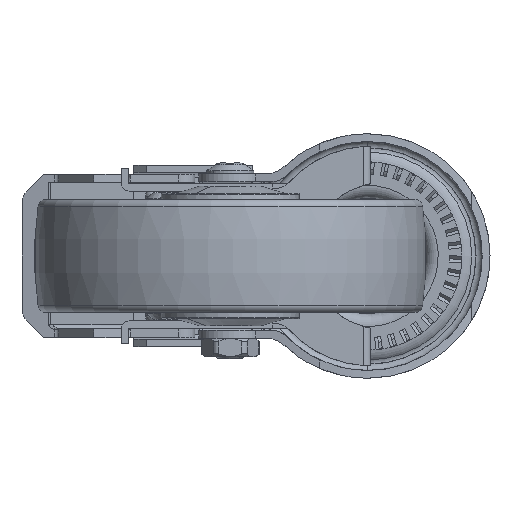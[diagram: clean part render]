
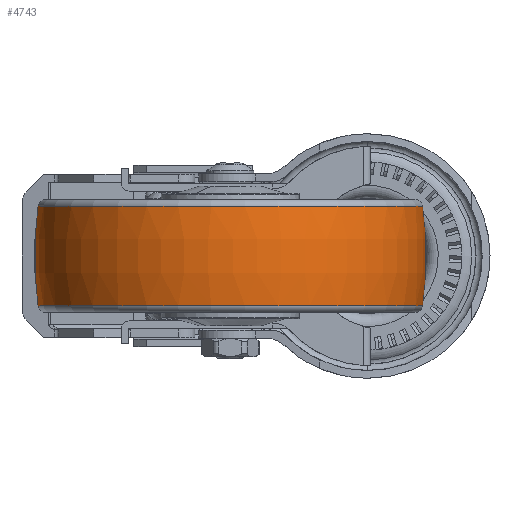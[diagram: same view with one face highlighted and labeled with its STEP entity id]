
A CAD part, front view. The second image highlights one B-rep face of the part: STEP entity #4743.
In plain terms, the highlighted toroidal (fillet/blend) face has major radius 62.5 mm and minor radius 125 mm.
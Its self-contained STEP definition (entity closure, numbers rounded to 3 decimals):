
#4465 = EDGE_CURVE ( 'NONE', #4569, #4468, #15910, .T. ) ;
#4468 = VERTEX_POINT ( 'NONE', #15924 ) ;
#4540 = VERTEX_POINT ( 'NONE', #16018 ) ;
#4544 = EDGE_CURVE ( 'NONE', #4574, #4540, #16017, .T. ) ;
#4569 = VERTEX_POINT ( 'NONE', #16072 ) ;
#4574 = VERTEX_POINT ( 'NONE', #16065 ) ;
#4610 = EDGE_CURVE ( 'NONE', #4569, #4574, #16098, .T. ) ;
#4742 = ORIENTED_EDGE ( 'NONE', *, *, #4610, .T. ) ;
#4743 = ADVANCED_FACE ( 'NONE', ( #16212 ), #16259, .T. ) ;
#4744 = ORIENTED_EDGE ( 'NONE', *, *, #4544, .T. ) ;
#4752 = ORIENTED_EDGE ( 'NONE', *, *, #4767, .F. ) ;
#4763 = ORIENTED_EDGE ( 'NONE', *, *, #4465, .F. ) ;
#4766 = EDGE_LOOP ( 'NONE', ( #4763, #4742, #4744, #4752 ) ) ;
#4767 = EDGE_CURVE ( 'NONE', #4468, #4540, #16292, .T. ) ;
#15905 = CARTESIAN_POINT ( 'NONE',  ( -15.478, -83.414, 52.767 ) ) ;
#15909 = AXIS2_PLACEMENT_3D ( 'NONE', #15905, #15956, #15955 ) ;
#15910 = CIRCLE ( 'NONE', #15909, 125. ) ;
#15924 = CARTESIAN_POINT ( 'NONE',  ( -139.121, -92.759, 68.583 ) ) ;
#15955 = DIRECTION ( 'NONE',  ( -0.997, -0.075, 0. ) ) ;
#15956 = DIRECTION ( 'NONE',  ( -0.075, 0.997, 0. ) ) ;
#16017 = CIRCLE ( 'NONE', #16051, 125. ) ;
#16018 = CARTESIAN_POINT ( 'NONE',  ( -16.48, -83.49, 68.583 ) ) ;
#16043 = DIRECTION ( 'NONE',  ( 0.997, 0.075, 0. ) ) ;
#16047 = DIRECTION ( 'NONE',  ( 0.075, -0.997, 0. ) ) ;
#16051 = AXIS2_PLACEMENT_3D ( 'NONE', #16058, #16047, #16043 ) ;
#16058 = CARTESIAN_POINT ( 'NONE',  ( -140.123, -92.835, 52.767 ) ) ;
#16065 = CARTESIAN_POINT ( 'NONE',  ( -16.48, -83.49, 36.951 ) ) ;
#16072 = CARTESIAN_POINT ( 'NONE',  ( -139.121, -92.759, 36.951 ) ) ;
#16098 = CIRCLE ( 'NONE', #16148, 61.495 ) ;
#16136 = DIRECTION ( 'NONE',  ( 0.997, 0.075, 0. ) ) ;
#16137 = DIRECTION ( 'NONE',  ( 0., 0., 1. ) ) ;
#16146 = CARTESIAN_POINT ( 'NONE',  ( -77.8, -88.124, 36.951 ) ) ;
#16148 = AXIS2_PLACEMENT_3D ( 'NONE', #16146, #16137, #16136 ) ;
#16212 = FACE_OUTER_BOUND ( 'NONE', #4766, .T. ) ;
#16242 = DIRECTION ( 'NONE',  ( 0.997, 0.075, 0. ) ) ;
#16252 = DIRECTION ( 'NONE',  ( 0., 0., 1. ) ) ;
#16253 = CARTESIAN_POINT ( 'NONE',  ( -77.8, -88.124, 52.767 ) ) ;
#16258 = AXIS2_PLACEMENT_3D ( 'NONE', #16253, #16252, #16242 ) ;
#16259 = TOROIDAL_SURFACE ( 'NONE', #16258, -62.5, 125. ) ;
#16279 = DIRECTION ( 'NONE',  ( 0.997, 0.075, 0. ) ) ;
#16280 = DIRECTION ( 'NONE',  ( 0., 0., 1. ) ) ;
#16281 = CARTESIAN_POINT ( 'NONE',  ( -77.8, -88.124, 68.583 ) ) ;
#16292 = CIRCLE ( 'NONE', #16294, 61.495 ) ;
#16294 = AXIS2_PLACEMENT_3D ( 'NONE', #16281, #16280, #16279 ) ;
